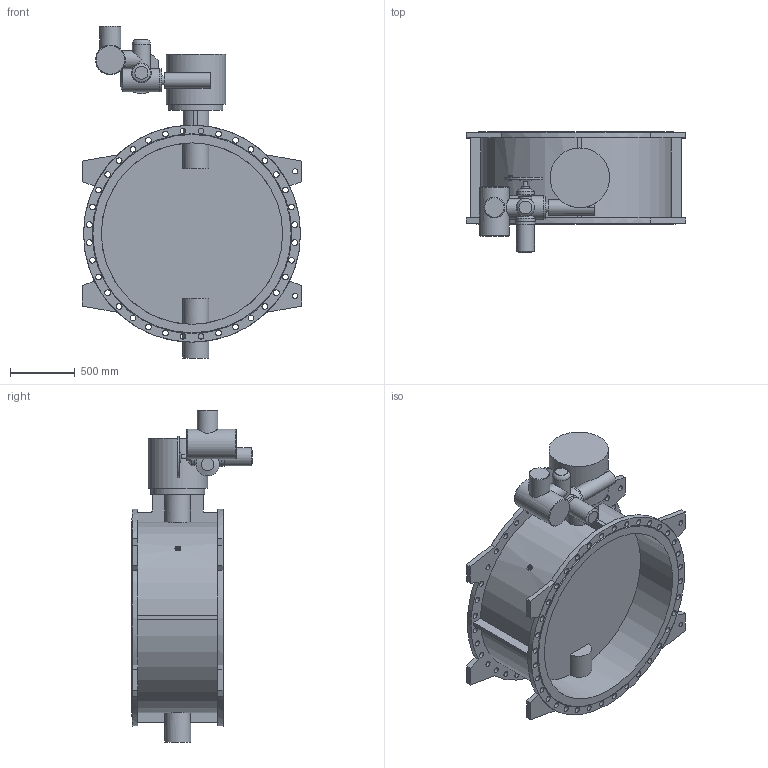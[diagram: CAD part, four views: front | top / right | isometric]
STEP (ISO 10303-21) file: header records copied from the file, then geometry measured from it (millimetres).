
FILE_DESCRIPTION(('STEP AP203'), '1');
FILE_NAME('Çàòâîð 023F.Z DN1400 PN10 + ðåäóêòîð + ÌÒ903.À30 ñ ÁÓ', '', ('UNSPECIFIED'), ('UNSPECIFIED'), 'ASCON STEP Converter 1.6', 'ASCON Math Kernel', '');
FILE_SCHEMA(('CONFIG_CONTROL_DESIGN'));
Length unit declared in the file: millimetre
Bounding box: 1690 x 929 x 2562 mm (x, y, z)
Volume: 459049217.2 mm3; surface area: 14944136.3 mm2
Topology: 1 solids, 1 shells, 274 faces, 674 edges, 444 vertices
Faces by surface type: cylinder 144, plane 116, cone 13, torus 1
Full cylindrical faces by diameter (mm): 14 x4, 18 x4, 27 x8, 32 x1, 33 x8, 40 x4, 44 x72, 60 x1, 70 x1, 100 x1, 120 x1, 140 x4, 147 x1, 151 x1, 160 x1, 175 x1, 180 x1, 200 x1, 230 x1, 415 x1, 460 x1, 1400 x2, 1675 x2
Entity records: 12080 total; most frequent: CARTESIAN_POINT 3408, DIRECTION 1347, ORIENTED_EDGE 1072, EDGE_LOOP 603, AXIS2_PLACEMENT_3D 578, EDGE_CURVE 536, VERTEX_POINT 443, FACE_BOUND 344
